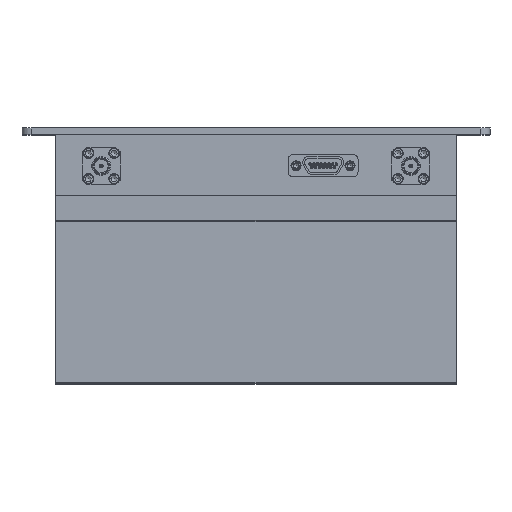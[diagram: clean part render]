
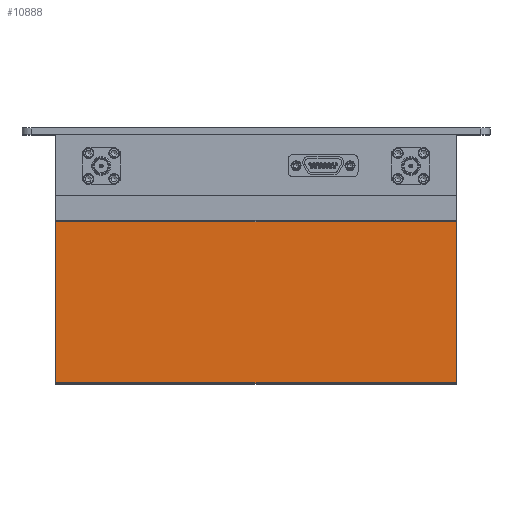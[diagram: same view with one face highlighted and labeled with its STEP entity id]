
A CAD part, top view. The second image highlights one B-rep face of the part: STEP entity #10888.
In plain terms, the highlighted planar face has unit normal (0, -0.005, 1) as drawn and (-1, 0.005, 0) by its records, which use the part's own axes.
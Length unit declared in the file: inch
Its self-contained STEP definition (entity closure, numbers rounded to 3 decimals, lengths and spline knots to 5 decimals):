
#9036=CARTESIAN_POINT('',(4.68237,12.36636,0.0));
#9037=VERTEX_POINT('',#9036);
#9045=CARTESIAN_POINT('',(4.67075,10.23625,0.0));
#9046=VERTEX_POINT('',#9045);
#9047=CARTESIAN_POINT('',(4.68237,12.36636,0.0));
#9048=DIRECTION('',(-0.005,-1.,0.0));
#9049=VECTOR('',#9048,2.13015);
#9050=LINE('',#9047,#9049);
#9051=EDGE_CURVE('',#9037,#9046,#9050,.T.);
#9099=CARTESIAN_POINT('',(4.67075,10.23625,-5.3));
#9100=VERTEX_POINT('',#9099);
#9108=CARTESIAN_POINT('',(4.68237,12.36636,-5.3));
#9109=VERTEX_POINT('',#9108);
#9110=CARTESIAN_POINT('',(4.68237,12.36636,-5.3));
#9111=DIRECTION('',(-0.005,-1.,0.0));
#9112=VECTOR('',#9111,2.13015);
#9113=LINE('',#9110,#9112);
#9114=EDGE_CURVE('',#9109,#9100,#9113,.T.);
#10861=CARTESIAN_POINT('',(4.68237,12.36636,-5.3));
#10862=DIRECTION('',(0.0,0.0,1.0));
#10863=VECTOR('',#10862,5.3);
#10864=LINE('',#10861,#10863);
#10865=EDGE_CURVE('',#9109,#9037,#10864,.T.);
#10872=CARTESIAN_POINT('',(4.67075,10.23625,-12.));
#10873=DIRECTION('',(-1.,0.005,0.0));
#10874=DIRECTION('',(0.0,0.0,1.0));
#10875=AXIS2_PLACEMENT_3D('',#10872,#10873,#10874);
#10876=PLANE('',#10875);
#10877=ORIENTED_EDGE('',*,*,#9114,.T.);
#10878=CARTESIAN_POINT('',(4.67075,10.23625,-5.3));
#10879=DIRECTION('',(0.0,0.0,1.0));
#10880=VECTOR('',#10879,5.3);
#10881=LINE('',#10878,#10880);
#10882=EDGE_CURVE('',#9100,#9046,#10881,.T.);
#10883=ORIENTED_EDGE('',*,*,#10882,.T.);
#10884=ORIENTED_EDGE('',*,*,#9051,.F.);
#10885=ORIENTED_EDGE('',*,*,#10865,.F.);
#10886=EDGE_LOOP('',(#10877,#10883,#10884,#10885));
#10887=FACE_OUTER_BOUND('',#10886,.T.);
#10888=ADVANCED_FACE('',(#10887),#10876,.T.);
